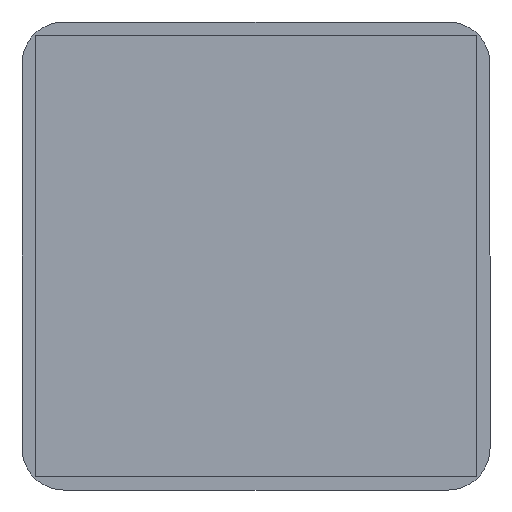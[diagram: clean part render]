
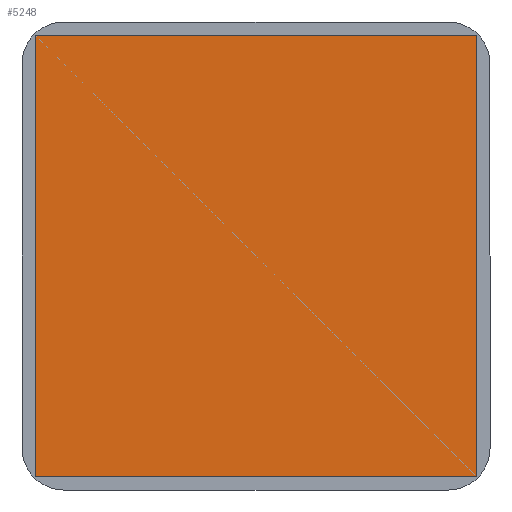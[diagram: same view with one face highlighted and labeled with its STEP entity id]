
A CAD part, front view. The second image highlights one B-rep face of the part: STEP entity #5248.
In plain terms, the highlighted planar face has unit normal (0, -1, 0).
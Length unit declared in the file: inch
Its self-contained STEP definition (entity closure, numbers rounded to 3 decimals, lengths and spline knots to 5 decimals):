
#272 = CARTESIAN_POINT ( 'NONE',  ( -0.68898, -0.005, 0.68898 ) ) ;
#482 = VECTOR ( 'NONE', #5440, 39.37008 ) ;
#615 = CARTESIAN_POINT ( 'NONE',  ( -0.68898, -0.005, 0.68898 ) ) ;
#677 = ORIENTED_EDGE ( 'NONE', *, *, #6230, .F. ) ;
#1155 = ORIENTED_EDGE ( 'NONE', *, *, #2034, .F. ) ;
#1486 = EDGE_LOOP ( 'NONE', ( #677, #3111, #4871, #1155 ) ) ;
#1566 = VECTOR ( 'NONE', #5905, 39.37008 ) ;
#1604 = LINE ( 'NONE', #5610, #1566 ) ;
#1673 = AXIS2_PLACEMENT_3D ( 'NONE', #615, #5112, #2645 ) ;
#1776 = VERTEX_POINT ( 'NONE', #3846 ) ;
#1778 = LINE ( 'NONE', #6318, #3932 ) ;
#2034 = EDGE_CURVE ( 'NONE', #1776, #3198, #4888, .T. ) ;
#2612 = FACE_OUTER_BOUND ( 'NONE', #1486, .T. ) ;
#2616 = CARTESIAN_POINT ( 'NONE',  ( -0.68898, -0.005, -0.68898 ) ) ;
#2645 = DIRECTION ( 'NONE',  ( 0., 0., 1. ) ) ;
#3020 = DIRECTION ( 'NONE',  ( 0., 0., 1. ) ) ;
#3038 = CARTESIAN_POINT ( 'NONE',  ( 0.68898, -0.005, -0.68898 ) ) ;
#3111 = ORIENTED_EDGE ( 'NONE', *, *, #5766, .F. ) ;
#3198 = VERTEX_POINT ( 'NONE', #4128 ) ;
#3846 = CARTESIAN_POINT ( 'NONE',  ( -0.68898, -0.005, 0.68898 ) ) ;
#3932 = VECTOR ( 'NONE', #4856, 39.37008 ) ;
#4128 = CARTESIAN_POINT ( 'NONE',  ( 0.68898, -0.005, 0.68898 ) ) ;
#4250 = VERTEX_POINT ( 'NONE', #3038 ) ;
#4273 = CARTESIAN_POINT ( 'NONE',  ( -0.68898, -0.005, -0.68898 ) ) ;
#4666 = EDGE_CURVE ( 'NONE', #3198, #4250, #1778, .T. ) ;
#4856 = DIRECTION ( 'NONE',  ( 0., 0., -1. ) ) ;
#4871 = ORIENTED_EDGE ( 'NONE', *, *, #4666, .F. ) ;
#4888 = LINE ( 'NONE', #272, #482 ) ;
#5112 = DIRECTION ( 'NONE',  ( 0., 1., 0. ) ) ;
#5196 = VECTOR ( 'NONE', #3020, 39.37008 ) ;
#5248 = ADVANCED_FACE ( 'NONE', ( #2612 ), #6199, .F. ) ;
#5256 = VERTEX_POINT ( 'NONE', #4273 ) ;
#5440 = DIRECTION ( 'NONE',  ( 1., 0., 0. ) ) ;
#5610 = CARTESIAN_POINT ( 'NONE',  ( -0.68898, -0.005, -0.68898 ) ) ;
#5663 = LINE ( 'NONE', #2616, #5196 ) ;
#5766 = EDGE_CURVE ( 'NONE', #4250, #5256, #1604, .T. ) ;
#5905 = DIRECTION ( 'NONE',  ( -1., 0., 0. ) ) ;
#6199 = PLANE ( 'NONE',  #1673 ) ;
#6230 = EDGE_CURVE ( 'NONE', #5256, #1776, #5663, .T. ) ;
#6318 = CARTESIAN_POINT ( 'NONE',  ( 0.68898, -0.005, -0.68898 ) ) ;
